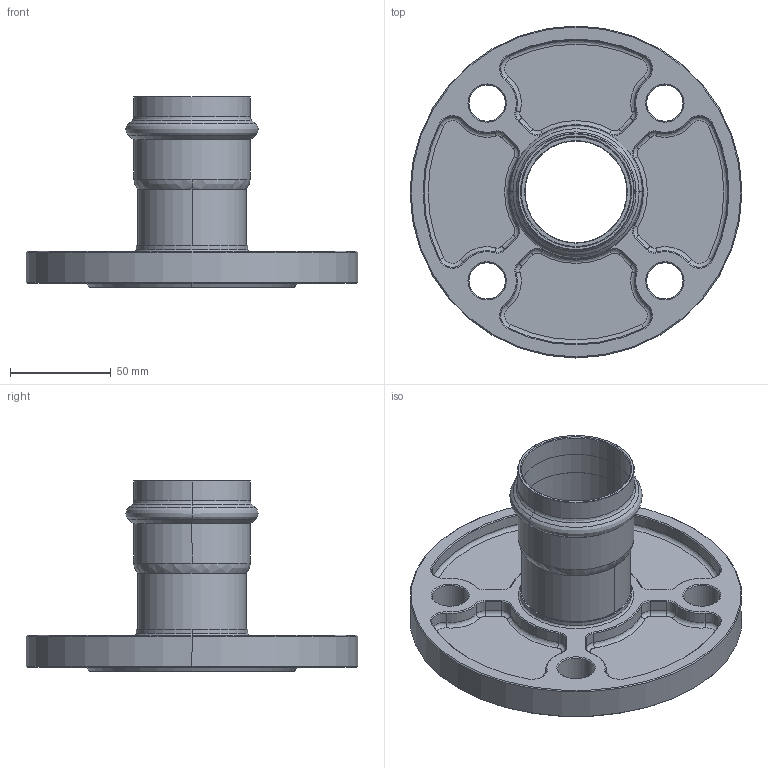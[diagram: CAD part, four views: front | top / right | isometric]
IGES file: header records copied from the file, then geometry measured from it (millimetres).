
Start section: Elysium IGES Interface
Global section: file name: C:\3d modellen sudo\S-Pr VP\SP6500V\6500VW54.igs; native system: CoCreate Modeling 17.00A  17-Jun-2010; preprocessor: CoCreate IGES_3D V2.2; author: Unknown; organization: Unknown; date: 20130129.102904; units: millimetre
Bounding box: 165 x 165 x 94.87 mm (x, y, z)
Volume: 248580.3 mm3; surface area: 85166.7 mm2
Topology: 1 solids, 1 shells, 278 faces, 608 edges, 354 vertices
Faces by surface type: bspline 278
